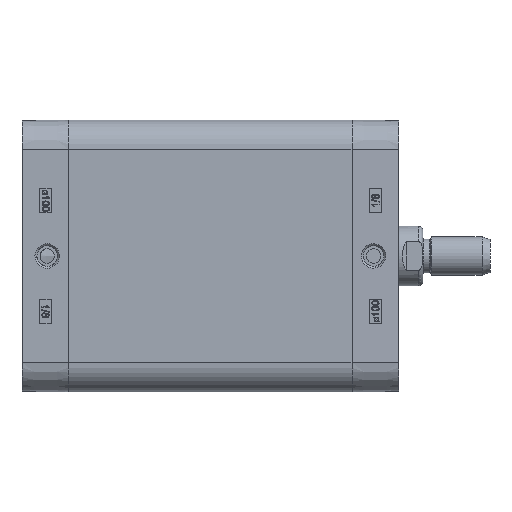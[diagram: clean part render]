
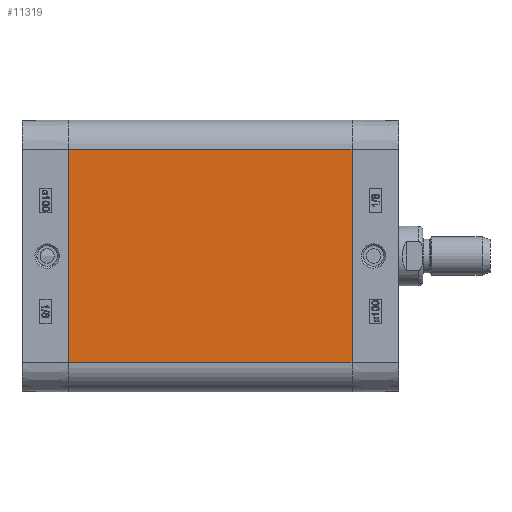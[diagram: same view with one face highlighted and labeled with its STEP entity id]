
A CAD part, left-side view. The second image highlights one B-rep face of the part: STEP entity #11319.
In plain terms, the highlighted planar face has unit normal (-1, 0, 0).
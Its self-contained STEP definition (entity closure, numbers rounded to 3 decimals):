
#5684=CARTESIAN_POINT('',(-56.65,-118.0,44.4));
#5685=VERTEX_POINT('',#5684);
#5692=CARTESIAN_POINT('',(-56.65,-118.0,-44.4));
#5693=VERTEX_POINT('',#5692);
#5694=CARTESIAN_POINT('',(-56.65,-118.0,-44.4));
#5695=DIRECTION('',(0.0,0.0,1.0));
#5696=VECTOR('',#5695,88.8);
#5697=LINE('',#5694,#5696);
#5698=EDGE_CURVE('',#5693,#5685,#5697,.T.);
#11277=CARTESIAN_POINT('',(-56.65,0.0,-44.4));
#11278=VERTEX_POINT('',#11277);
#11279=CARTESIAN_POINT('',(-56.65,0.0,-44.4));
#11280=DIRECTION('',(0.0,-1.0,0.0));
#11281=VECTOR('',#11280,118.0);
#11282=LINE('',#11279,#11281);
#11283=EDGE_CURVE('',#11278,#5693,#11282,.T.);
#11296=CARTESIAN_POINT('',(-56.65,0.0,-44.4));
#11297=DIRECTION('',(-1.0,0.0,0.0));
#11298=DIRECTION('',(0.0,0.0,1.0));
#11299=AXIS2_PLACEMENT_3D('',#11296,#11297,#11298);
#11300=PLANE('',#11299);
#11301=ORIENTED_EDGE('',*,*,#5698,.T.);
#11302=CARTESIAN_POINT('',(-56.65,0.0,44.4));
#11303=VERTEX_POINT('',#11302);
#11304=CARTESIAN_POINT('',(-56.65,0.0,44.4));
#11305=DIRECTION('',(0.0,-1.0,0.0));
#11306=VECTOR('',#11305,118.0);
#11307=LINE('',#11304,#11306);
#11308=EDGE_CURVE('',#11303,#5685,#11307,.T.);
#11309=ORIENTED_EDGE('',*,*,#11308,.F.);
#11310=CARTESIAN_POINT('',(-56.65,0.0,-44.4));
#11311=DIRECTION('',(0.0,0.0,1.0));
#11312=VECTOR('',#11311,88.8);
#11313=LINE('',#11310,#11312);
#11314=EDGE_CURVE('',#11278,#11303,#11313,.T.);
#11315=ORIENTED_EDGE('',*,*,#11314,.F.);
#11316=ORIENTED_EDGE('',*,*,#11283,.T.);
#11317=EDGE_LOOP('',(#11301,#11309,#11315,#11316));
#11318=FACE_OUTER_BOUND('',#11317,.T.);
#11319=ADVANCED_FACE('',(#11318),#11300,.T.);
